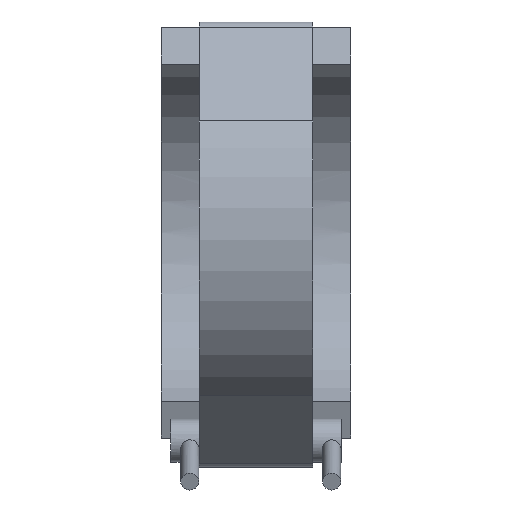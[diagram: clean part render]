
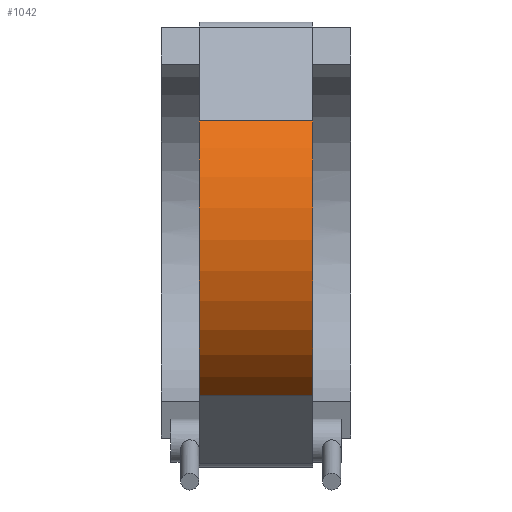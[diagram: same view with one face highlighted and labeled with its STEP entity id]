
A CAD part, front view. The second image highlights one B-rep face of the part: STEP entity #1042.
In plain terms, the highlighted cylindrical face has radius 175.245 mm (diameter 350.49 mm), a partial arc.
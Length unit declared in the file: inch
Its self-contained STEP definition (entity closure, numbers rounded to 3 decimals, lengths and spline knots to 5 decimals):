
#146=FACE_OUTER_BOUND('',#225,.T.);
#225=EDGE_LOOP('',(#926,#927,#928,#929));
#291=LINE('',#2197,#358);
#292=LINE('',#2201,#359);
#358=VECTOR('',#1465,0.3937);
#359=VECTOR('',#1470,0.3937);
#419=CIRCLE('',#1174,6.89941);
#422=CIRCLE('',#1179,6.89941);
#513=VERTEX_POINT('',#2181);
#514=VERTEX_POINT('',#2183);
#519=VERTEX_POINT('',#2195);
#520=VERTEX_POINT('',#2199);
#651=EDGE_CURVE('',#513,#514,#419,.T.);
#658=EDGE_CURVE('',#513,#519,#291,.T.);
#659=EDGE_CURVE('',#520,#519,#422,.T.);
#660=EDGE_CURVE('',#514,#520,#292,.T.);
#926=ORIENTED_EDGE('',*,*,#658,.T.);
#927=ORIENTED_EDGE('',*,*,#659,.F.);
#928=ORIENTED_EDGE('',*,*,#660,.F.);
#929=ORIENTED_EDGE('',*,*,#651,.F.);
#984=CYLINDRICAL_SURFACE('',#1178,6.89941);
#1042=ADVANCED_FACE('',(#146),#984,.T.);
#1174=AXIS2_PLACEMENT_3D('',#2184,#1453,#1454);
#1178=AXIS2_PLACEMENT_3D('',#2198,#1466,#1467);
#1179=AXIS2_PLACEMENT_3D('',#2200,#1468,#1469);
#1453=DIRECTION('center_axis',(-1.,0.,0.));
#1454=DIRECTION('ref_axis',(0.,-0.805,0.593));
#1465=DIRECTION('',(1.,0.,0.));
#1466=DIRECTION('center_axis',(1.,0.,0.));
#1467=DIRECTION('ref_axis',(0.,-0.805,0.593));
#1468=DIRECTION('center_axis',(1.,0.,0.));
#1469=DIRECTION('ref_axis',(0.,-0.805,0.593));
#1470=DIRECTION('',(1.,0.,0.));
#2181=CARTESIAN_POINT('',(-5.544,-3.46752,-5.96474));
#2183=CARTESIAN_POINT('',(-5.544,-5.55361,4.0938));
#2184=CARTESIAN_POINT('Origin',(-5.544,0.,0.));
#2195=CARTESIAN_POINT('',(-1.386,-3.46752,-5.96474));
#2197=CARTESIAN_POINT('',(-3.465,-3.46752,-5.96474));
#2198=CARTESIAN_POINT('Origin',(-3.465,0.,0.));
#2199=CARTESIAN_POINT('',(-1.386,-5.55361,4.0938));
#2200=CARTESIAN_POINT('Origin',(-1.386,0.,0.));
#2201=CARTESIAN_POINT('',(-3.465,-5.55361,4.0938));
